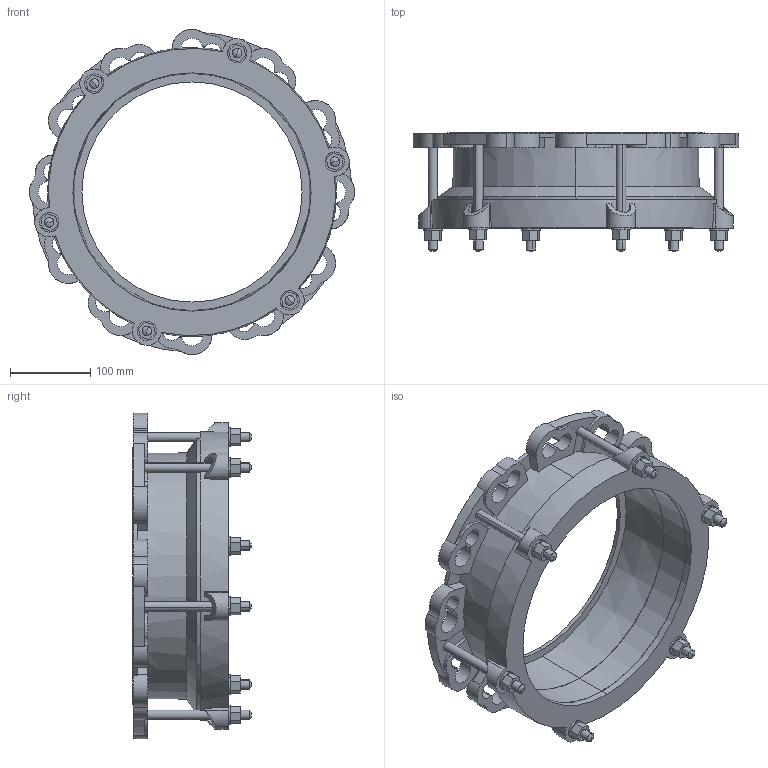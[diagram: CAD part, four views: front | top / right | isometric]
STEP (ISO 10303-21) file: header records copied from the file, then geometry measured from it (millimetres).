
FILE_DESCRIPTION((''),'2;1');
FILE_NAME('BIM_12419_10','2018-10-09T',('MReader'),(''),'CREO PARAMETRIC BY PTC INC, 2016130','CREO PARAMETRIC BY PTC INC, 2016130','');
FILE_SCHEMA(('CONFIG_CONTROL_DESIGN'));
Length unit declared in the file: millimetre
Products named in the file (1): BIM_12419_10
Bounding box: 404.96 x 148 x 404.96 mm (x, y, z)
Volume: 2323818.7 mm3; surface area: 627919.4 mm2
Topology: 2 solids, 2 shells, 332 faces, 944 edges, 612 vertices
Faces by surface type: cylinder 158, plane 135, cone 27, sphere 12
Entity records: 11504 total; most frequent: CARTESIAN_POINT 2516, DIRECTION 1964, ORIENTED_EDGE 1864, EDGE_CURVE 932, AXIS2_PLACEMENT_3D 772, VERTEX_POINT 612, CIRCLE 440, VECTOR 420
